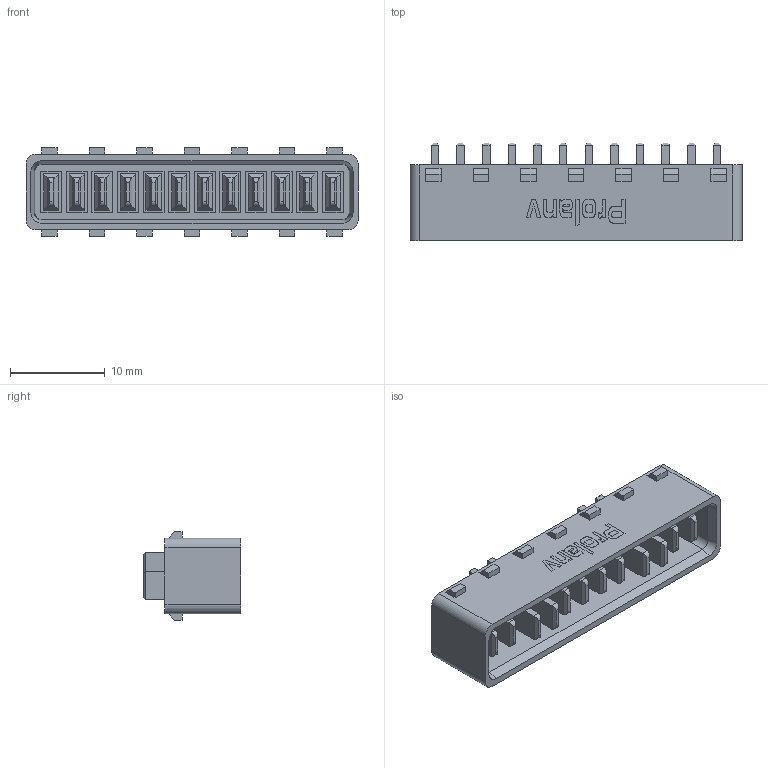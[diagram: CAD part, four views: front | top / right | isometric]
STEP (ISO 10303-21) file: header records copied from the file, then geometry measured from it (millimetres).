
FILE_DESCRIPTION(/* description */ (''),/* implementation_level */ '2;1');
FILE_NAME(/* name */ 'PDC1510B0001无耳公座.stp',/* time_stamp */ '2024-06-13T15:06:17+08:00',/* author */ (''),/* organization */ (''),/* preprocessor_version */ 'ST-DEVELOPER v16.7',/* originating_system */ 'SIEMENS PLM Software NX 1946',/* authorisation */ '');
FILE_SCHEMA (('AUTOMOTIVE_DESIGN { 1 0 10303 214 3 1 1 1 }'));
Length unit declared in the file: millimetre
Products named in the file (1): PDC1510B0001无耳公座
Bounding box: 35 x 10.3 x 9.3 mm (x, y, z)
Volume: 1385.2 mm3; surface area: 2341.5 mm2
Topology: 1 solids, 1 shells, 712 faces, 1810 edges, 1172 vertices
Faces by surface type: plane 566, cylinder 82, extrusion 60, bspline 4
Entity records: 23193 total; most frequent: CARTESIAN_POINT 4797, ORIENTED_EDGE 3620, DIRECTION 3110, EDGE_CURVE 1810, VECTOR 1452, LINE 1392, VERTEX_POINT 1172, AXIS2_PLACEMENT_3D 829
